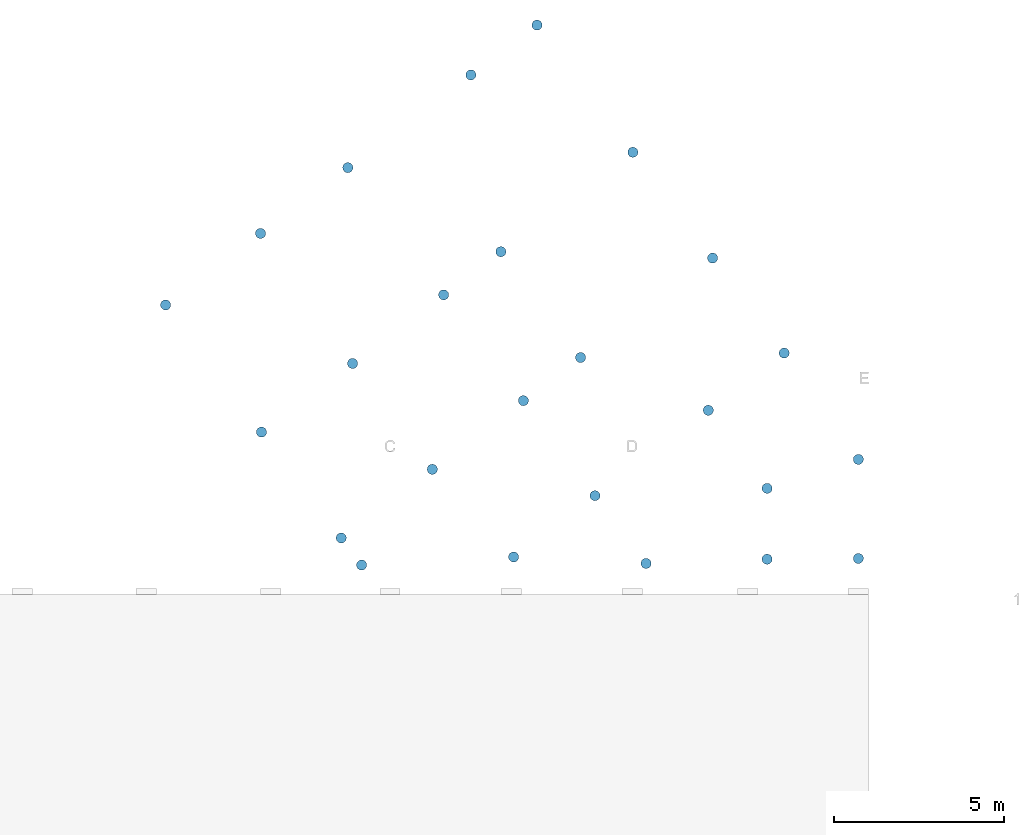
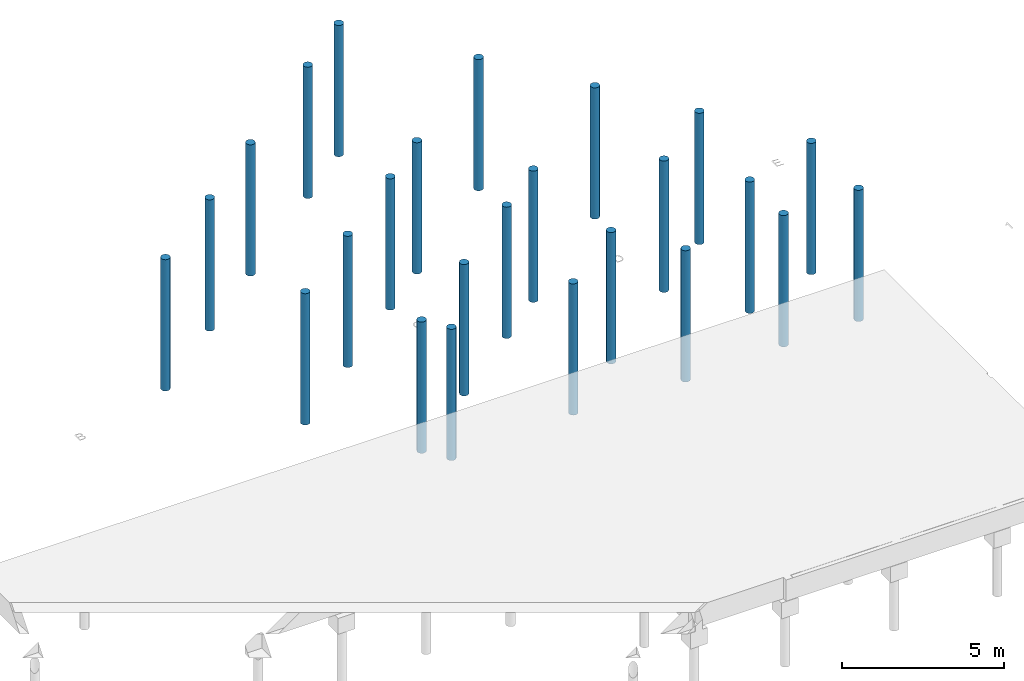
# One storey, incomplete: 25 piles.
"""IFC2X3 building model written with IfcOpenShell, lengths in millimetres."""

from ifc_helpers import new_model, entity, si_unit, converted_unit, money_unit, direction, frame, origin_with_axes, origin_2d_with_axis, place, context, subcontext, project, spatial, circle, extrude, material, element, save


model = new_model("IFC2X3")

# Units and contexts
model_context = context("Model", 3, precision=1e-05, world=origin_with_axes(), true_north=direction((0.0, 1.0)))
body_context = subcontext(model_context, "Body", "Model", "MODEL_VIEW")
ifc_project = project(units=[si_unit("LENGTHUNIT", "METRE", prefix="MILLI"), si_unit("AREAUNIT", "SQUARE_METRE"), si_unit("VOLUMEUNIT", "CUBIC_METRE"), converted_unit("PLANEANGLEUNIT", "DEGREE", entity("IfcPlaneAngleMeasure", 0.0174532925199), si_unit("PLANEANGLEUNIT", "RADIAN"), dimensions=[0, 0, 0, 0, 0, 0, 0]), si_unit("SOLIDANGLEUNIT", "STERADIAN"), money_unit("EUR"), converted_unit("TIMEUNIT", "Year", entity("IfcTimeMeasure", 31556926.0), si_unit("TIMEUNIT", "SECOND"), dimensions=[0, 0, 0, 0, 0, 0, 0]), si_unit("MASSUNIT", "GRAM"), si_unit("THERMODYNAMICTEMPERATUREUNIT", "DEGREE_CELSIUS"), si_unit("LUMINOUSINTENSITYUNIT", "LUMEN")], contexts=[model_context])

# Site, building, storey
site_placement = place(None, origin_with_axes())
site = spatial("IfcSite", under=ifc_project, at=site_placement, Name="Default Site", CompositionType="ELEMENT")
building_placement = place(site_placement, origin_with_axes())
building = spatial("IfcBuilding", under=site, at=building_placement, Name="Default Building", CompositionType="ELEMENT")
storey_placement = place(building_placement, frame((0.0, 0.0, -3600.0), z_axis=(0.0, 0.0, 1.0), x_axis=(1.0, 0.0, 0.0)))
storey = spatial("IfcBuildingStorey", under=building, at=storey_placement, Name="FONDATIONS PROFONDES", CompositionType="ELEMENT", Elevation=-3600.0)

# Piles
ifc_material = material(Name="Struct. - B.A. coulé")
for number, where, z_axis, x_axis, name in (
    (1, (23308.1763429, 32975.8546588, 1000.0), (0.0, 0.0, 1.0), (0.798635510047, 0.601815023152, 0.0), "Pieu-005"),
    (2, (21359.5056984, 31507.4260023, 1000.0), (0.0, 0.0, 1.0), (0.798635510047, 0.601815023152, 0.0), "Pieu-004"),
    (3, (17733.7004828, 28775.1857972, 1000.0), (0.0, 0.0, 1.0), (0.798635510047, 0.601815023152, 0.0), "Pieu-003"),
    (4, (15162.0941404, 26837.3414226, 1000.0), (0.0, 0.0, 1.0), (0.798635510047, 0.601815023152, 0.0), "Pieu-002"),
    (5, (12366.8698553, 24730.9888416, 1000.0), (0.0, 0.0, 1.0), (0.798635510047, 0.601815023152, 0.0), "Pieu001"),
    (6, (15189.9841289, 20984.589664, 1000.0), (0.0, 0.0, 1.0), (0.798635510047, 0.601815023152, 0.0), "Pieu-006"),
    (7, (17873.3994426, 23006.6881418, 1000.0), (0.0, 0.0, 1.0), (0.798635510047, 0.601815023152, 0.0), "Pieu-007"),
    (8, (20556.8147564, 25028.7866195, 1000.0), (0.0, 0.0, 1.0), (0.798635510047, 0.601815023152, 0.0), "Pieu-008"),
    (9, (22242.7343181, 26299.2181334, 1000.0), (0.0, 0.0, 1.0), (0.798635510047, 0.601815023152, 0.0), "Pieu-009"),
    (10, (26131.2906165, 29229.4554811, 1000.0), (0.0, 0.0, 1.0), (0.798635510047, 0.601815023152, 0.0), "Pieu-010"),
    (11, (28480.7764669, 26111.5824499, 1000.0), (0.0, 0.0, 1.0), (0.798635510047, 0.601815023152, 0.0), "Pieu-015"),
    (12, (24592.2201685, 23181.3451022, 1000.0), (0.0, 0.0, 1.0), (0.798635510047, 0.601815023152, 0.0), "Pieu-014"),
    (13, (22906.3006068, 21910.9135883, 1000.0), (0.0, 0.0, 1.0), (0.798635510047, 0.601815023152, 0.0), "Pieu-013"),
    (14, (20222.885293, 19888.8151105, 1000.0), (0.0, 0.0, 1.0), (0.798635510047, 0.601815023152, 0.0), "Pieu-012"),
    (15, (17539.4699792, 17866.7166327, 1000.0), (0.0, 0.0, 1.0), (0.798635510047, 0.601815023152, 0.0), "Pieu-011"),
    (16, (18141.2850024, 17068.0811227, 1000.0), (0.0, 0.0, 1.0), (0.798635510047, 0.601815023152, 0.0), "Pieu-016"),
    (17, (30590.138123, 23312.3649872, 1000.0), (0.0, 0.0, 1.0), (0.798635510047, 0.601815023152, 0.0), "Pieu-020"),
    (18, (28353.9586949, 21627.2829224, 1000.0), (0.0, 0.0, 1.0), (0.798635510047, 0.601815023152, 0.0), "Pieu-019"),
    (19, (30086.5841457, 19328.0112901, 1000.0), (0.0, 0.0, 1.0), (0.798635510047, 0.601815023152, 0.0), "Pieu-022"),
    (20, (32774.2515183, 20180.3887276, 1000.0), (0.0, 0.0, 1.0), (0.798635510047, 0.601815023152, 0.0), "Pieu-023"),
    (21, (32774.2515183, 17262.0565137, 1000.0), (0.0, 0.0, 1.0), (0.798635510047, 0.601815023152, 0.0), "Pieu-025"),
    (22, (30086.584145, 17240.1773689, 1000.0), (0.0, 0.0, 1.0), (0.798635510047, 0.601815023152, 0.0), "Pieu-024"),
    (23, (26520.1998208, 17115.1073505, 1000.0), (0.0, 0.0, 1.0), (0.798635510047, 0.601815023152, 0.0), "Pieu-021"),
    (24, (25015.6622629, 19111.6961256, 1000.0), (0.0, 0.0, 1.0), (0.798635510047, 0.601815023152, 0.0), "Pieu-018"),
    (25, (22619.7557328, 17306.2510561, 1000.0), (0.0, 0.0, 1.0), (0.798635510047, 0.601815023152, 0.0), "Pieu-017"),
):
    element("IfcPile", number, at=place(storey_placement, frame(where, z_axis=z_axis, x_axis=x_axis)), inside=storey, material=ifc_material, Name=name, PredefinedType="NOTDEFINED", context=body_context, shape_type="SweptSolid", body=[
        extrude(circle(Radius=150.0, at=origin_2d_with_axis()), origin_with_axes(), (0.0, 0.0, 1.0), 4950.0),
    ])

save(model, "model.ifc")
